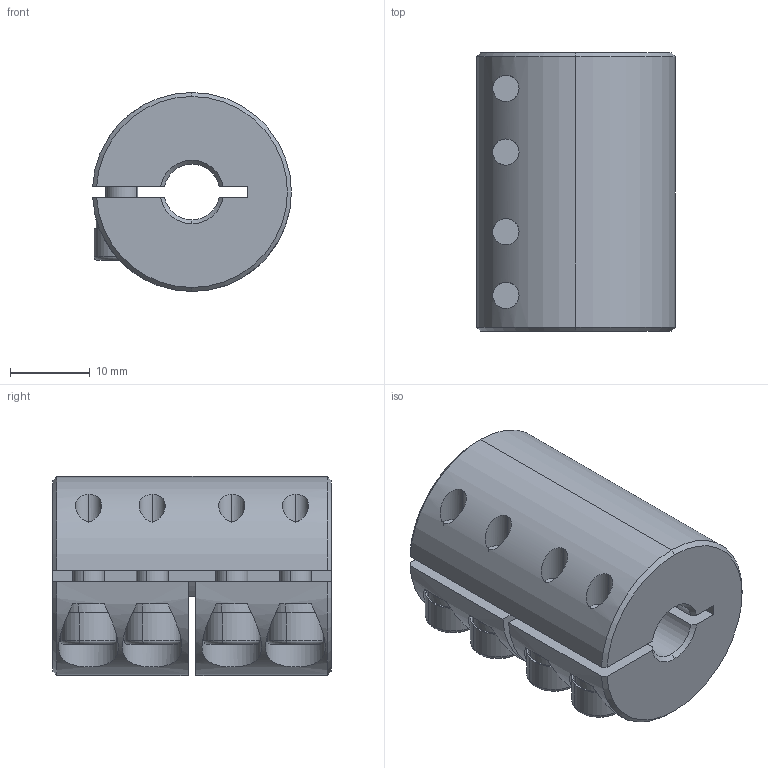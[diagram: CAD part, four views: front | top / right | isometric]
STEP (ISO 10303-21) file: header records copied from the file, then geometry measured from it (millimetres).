
FILE_DESCRIPTION (( 'STEP AP203' ), '1' );
FILE_NAME ('LL-B-D25L35-7-12.STEP', '2021-11-05T06:58:51', ( '' ), ( '' ), 'SwSTEP 2.0', 'SolidWorks 2018', '' );
FILE_SCHEMA (( 'CONFIG_CONTROL_DESIGN' ));
Length unit declared in the file: millimetre
Products named in the file (1): LL-B-D25L35-7-12
Bounding box: 24.98 x 35 x 25 mm (x, y, z)
Volume: 13457.4 mm3; surface area: 6909.2 mm2
Topology: 1 solids, 1 shells, 192 faces, 493 edges, 307 vertices
Faces by surface type: plane 92, cylinder 72, cone 20, torus 8
Entity records: 6313 total; most frequent: CARTESIAN_POINT 1497, DIRECTION 1042, ORIENTED_EDGE 970, EDGE_CURVE 485, AXIS2_PLACEMENT_3D 404, VERTEX_POINT 307, VECTOR 234, LINE 234
